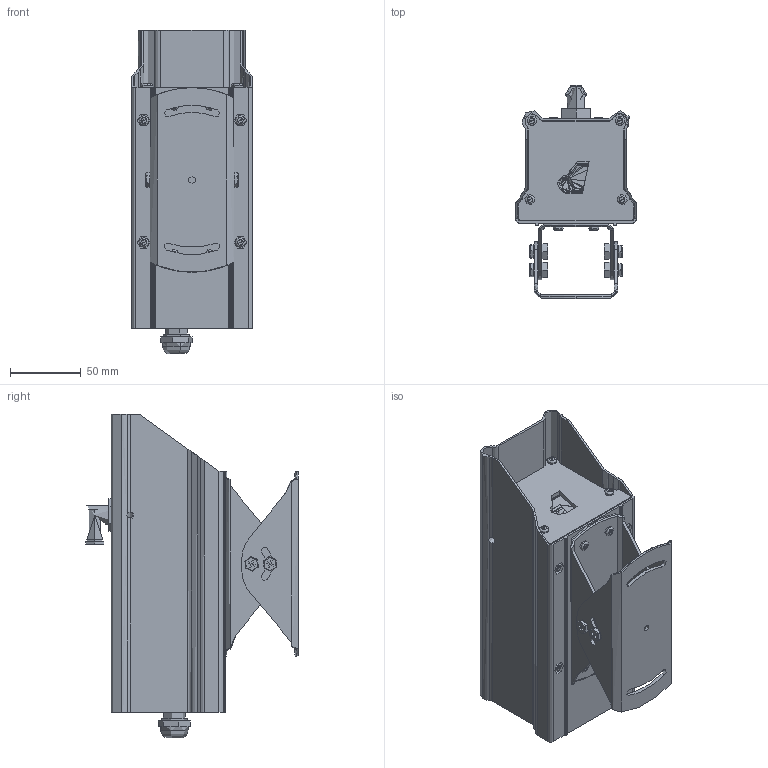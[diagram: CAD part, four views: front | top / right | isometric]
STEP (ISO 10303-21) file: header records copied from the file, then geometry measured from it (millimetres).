
FILE_DESCRIPTION (( 'STEP AP214' ), '1' );
FILE_NAME ('Dimetix_D_Series_air jacket_Standard_01.STEP', '2020-09-21T12:17:57', ( '' ), ( '' ), 'SwSTEP 2.0', 'SolidWorks 2020', '' );
FILE_SCHEMA (( 'AUTOMOTIVE_DESIGN' ));
Length unit declared in the file: millimetre
Products named in the file (1): Dimetix_D_Series_air jacket_Standard_01
Bounding box: 85 x 150 x 227.9 mm (x, y, z)
Topology: 0 solids, 99 shells, 4177 faces, 11139 edges, 7082 vertices
Faces by surface type: plane 1662, cylinder 1218, bspline 828, cone 369, torus 60, sphere 40
Entity records: 230329 total; most frequent: CARTESIAN_POINT 100159, ORIENTED_EDGE 21196, EDGE_CURVE 11027, DIRECTION 10762, B_SPLINE_CURVE_WITH_KNOTS 7268, VERTEX_POINT 7081, EDGE_LOOP 4604, AXIS2_PLACEMENT_3D 4391
